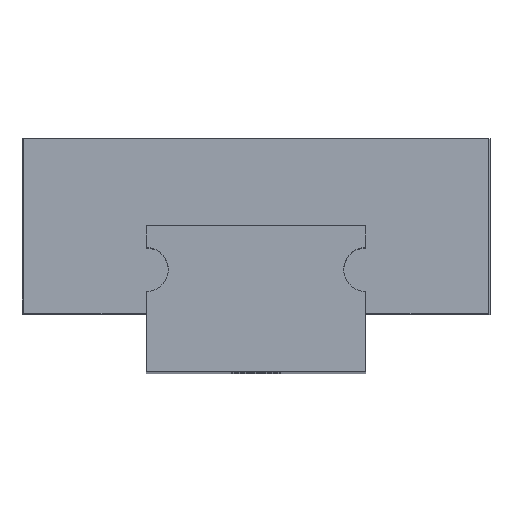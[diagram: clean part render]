
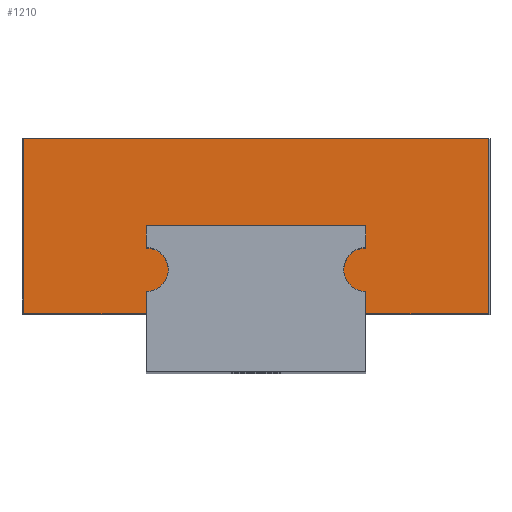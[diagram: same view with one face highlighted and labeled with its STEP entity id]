
A CAD part, top view. The second image highlights one B-rep face of the part: STEP entity #1210.
In plain terms, the highlighted planar face has unit normal (0, 0, 1).
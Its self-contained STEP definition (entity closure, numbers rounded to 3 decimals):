
#22 = EDGE_CURVE ( 'NONE', #777, #1383, #664, .T. ) ;
#50 = DIRECTION ( 'NONE',  ( 1., 0., 0. ) ) ;
#154 = CARTESIAN_POINT ( 'NONE',  ( -15.9, -6., 21.55 ) ) ;
#164 = CIRCLE ( 'NONE', #1069, 1.5 ) ;
#165 = VERTEX_POINT ( 'NONE', #1199 ) ;
#204 = CARTESIAN_POINT ( 'NONE',  ( -7.5, -4.5, 21.55 ) ) ;
#222 = CARTESIAN_POINT ( 'NONE',  ( -15.9, 6., 21.55 ) ) ;
#288 = CARTESIAN_POINT ( 'NONE',  ( -6., -3., 21.55 ) ) ;
#292 = EDGE_CURVE ( 'NONE', #464, #1184, #1625, .T. ) ;
#326 = VERTEX_POINT ( 'NONE', #1924 ) ;
#333 = LINE ( 'NONE', #222, #2474 ) ;
#351 = AXIS2_PLACEMENT_3D ( 'NONE', #1691, #2533, #50 ) ;
#399 = ORIENTED_EDGE ( 'NONE', *, *, #437, .T. ) ;
#437 = EDGE_CURVE ( 'NONE', #326, #1855, #1061, .T. ) ;
#441 = CARTESIAN_POINT ( 'NONE',  ( -15.9, 6., 21.55 ) ) ;
#447 = DIRECTION ( 'NONE',  ( -1., 0., 0. ) ) ;
#452 = CARTESIAN_POINT ( 'NONE',  ( 7.5, -3., 21.55 ) ) ;
#456 = ORIENTED_EDGE ( 'NONE', *, *, #2541, .F. ) ;
#464 = VERTEX_POINT ( 'NONE', #2331 ) ;
#507 = CARTESIAN_POINT ( 'NONE',  ( -7.5, 0., 21.55 ) ) ;
#528 = ORIENTED_EDGE ( 'NONE', *, *, #2313, .T. ) ;
#538 = CARTESIAN_POINT ( 'NONE',  ( -7.5, -6., 21.55 ) ) ;
#584 = VERTEX_POINT ( 'NONE', #204 ) ;
#610 = EDGE_CURVE ( 'NONE', #584, #1184, #1869, .T. ) ;
#611 = CARTESIAN_POINT ( 'NONE',  ( 15.9, 6., 21.55 ) ) ;
#617 = ORIENTED_EDGE ( 'NONE', *, *, #1329, .T. ) ;
#635 = DIRECTION ( 'NONE',  ( 0., 1., 0. ) ) ;
#653 = VERTEX_POINT ( 'NONE', #1391 ) ;
#664 = LINE ( 'NONE', #1988, #2319 ) ;
#666 = EDGE_CURVE ( 'NONE', #2002, #1290, #1709, .T. ) ;
#670 = DIRECTION ( 'NONE',  ( 1., 0., 0. ) ) ;
#735 = DIRECTION ( 'NONE',  ( 0., 0., 1. ) ) ;
#745 = EDGE_CURVE ( 'NONE', #2435, #2670, #1195, .T. ) ;
#762 = ORIENTED_EDGE ( 'NONE', *, *, #895, .F. ) ;
#776 = DIRECTION ( 'NONE',  ( 0., 1., 0. ) ) ;
#777 = VERTEX_POINT ( 'NONE', #1139 ) ;
#794 = CARTESIAN_POINT ( 'NONE',  ( 7.5, -4.5, 21.55 ) ) ;
#799 = DIRECTION ( 'NONE',  ( 0., 0., -1. ) ) ;
#853 = LINE ( 'NONE', #1940, #1978 ) ;
#895 = EDGE_CURVE ( 'NONE', #1383, #2435, #2216, .T. ) ;
#911 = ORIENTED_EDGE ( 'NONE', *, *, #1235, .F. ) ;
#936 = DIRECTION ( 'NONE',  ( 0., -1., 0. ) ) ;
#968 = CARTESIAN_POINT ( 'NONE',  ( -7.5, -4.5, 21.55 ) ) ;
#1006 = DIRECTION ( 'NONE',  ( 1., 0., 0. ) ) ;
#1041 = EDGE_CURVE ( 'NONE', #165, #777, #853, .T. ) ;
#1061 = LINE ( 'NONE', #611, #1559 ) ;
#1069 = AXIS2_PLACEMENT_3D ( 'NONE', #452, #1105, #670 ) ;
#1105 = DIRECTION ( 'NONE',  ( 0., 0., -1. ) ) ;
#1139 = CARTESIAN_POINT ( 'NONE',  ( 7.5, 0., 21.55 ) ) ;
#1184 = VERTEX_POINT ( 'NONE', #538 ) ;
#1195 = CIRCLE ( 'NONE', #2716, 1.5 ) ;
#1199 = CARTESIAN_POINT ( 'NONE',  ( 7.5, -1.5, 21.55 ) ) ;
#1210 = ADVANCED_FACE ( 'NONE', ( #2007 ), #1596, .T. ) ;
#1225 = EDGE_LOOP ( 'NONE', ( #2669, #617, #399, #528, #1858, #1777, #2603, #911, #2708, #762, #2404, #1673, #456 ) ) ;
#1235 = EDGE_CURVE ( 'NONE', #2670, #584, #2282, .T. ) ;
#1242 = AXIS2_PLACEMENT_3D ( 'NONE', #1995, #735, #1594 ) ;
#1271 = EDGE_CURVE ( 'NONE', #653, #464, #333, .T. ) ;
#1290 = VERTEX_POINT ( 'NONE', #2138 ) ;
#1325 = VECTOR ( 'NONE', #1627, 1000. ) ;
#1329 = EDGE_CURVE ( 'NONE', #2002, #326, #1522, .T. ) ;
#1365 = CARTESIAN_POINT ( 'NONE',  ( -7.5, 0., 21.55 ) ) ;
#1383 = VERTEX_POINT ( 'NONE', #1365 ) ;
#1391 = CARTESIAN_POINT ( 'NONE',  ( -15.9, 6., 21.55 ) ) ;
#1438 = DIRECTION ( 'NONE',  ( 1., 0., 0. ) ) ;
#1506 = CARTESIAN_POINT ( 'NONE',  ( -15.9, -6., 21.55 ) ) ;
#1519 = DIRECTION ( 'NONE',  ( 1., 0., 0. ) ) ;
#1522 = LINE ( 'NONE', #1506, #2177 ) ;
#1526 = VECTOR ( 'NONE', #936, 1000. ) ;
#1559 = VECTOR ( 'NONE', #635, 1000. ) ;
#1572 = CARTESIAN_POINT ( 'NONE',  ( 15.9, 6., 21.55 ) ) ;
#1594 = DIRECTION ( 'NONE',  ( 1., 0., 0. ) ) ;
#1596 = PLANE ( 'NONE',  #1242 ) ;
#1625 = LINE ( 'NONE', #154, #1904 ) ;
#1627 = DIRECTION ( 'NONE',  ( 0., -1., 0. ) ) ;
#1673 = ORIENTED_EDGE ( 'NONE', *, *, #1041, .F. ) ;
#1691 = CARTESIAN_POINT ( 'NONE',  ( -7.5, -3., 21.55 ) ) ;
#1709 = LINE ( 'NONE', #794, #2647 ) ;
#1777 = ORIENTED_EDGE ( 'NONE', *, *, #292, .T. ) ;
#1855 = VERTEX_POINT ( 'NONE', #1572 ) ;
#1858 = ORIENTED_EDGE ( 'NONE', *, *, #1271, .T. ) ;
#1869 = LINE ( 'NONE', #968, #1325 ) ;
#1904 = VECTOR ( 'NONE', #1438, 1000. ) ;
#1924 = CARTESIAN_POINT ( 'NONE',  ( 15.9, -6., 21.55 ) ) ;
#1940 = CARTESIAN_POINT ( 'NONE',  ( 7.5, 0., 21.55 ) ) ;
#1964 = DIRECTION ( 'NONE',  ( 0., 1., 0. ) ) ;
#1978 = VECTOR ( 'NONE', #1964, 1000. ) ;
#1988 = CARTESIAN_POINT ( 'NONE',  ( -7.5, 0., 21.55 ) ) ;
#1995 = CARTESIAN_POINT ( 'NONE',  ( 0., 0., 21.55 ) ) ;
#2002 = VERTEX_POINT ( 'NONE', #2266 ) ;
#2007 = FACE_OUTER_BOUND ( 'NONE', #1225, .T. ) ;
#2060 = CARTESIAN_POINT ( 'NONE',  ( -7.5, -3., 21.55 ) ) ;
#2138 = CARTESIAN_POINT ( 'NONE',  ( 7.5, -4.5, 21.55 ) ) ;
#2171 = CARTESIAN_POINT ( 'NONE',  ( -7.5, -1.5, 21.55 ) ) ;
#2177 = VECTOR ( 'NONE', #1519, 1000. ) ;
#2191 = DIRECTION ( 'NONE',  ( -1., 0., 0. ) ) ;
#2216 = LINE ( 'NONE', #507, #1526 ) ;
#2266 = CARTESIAN_POINT ( 'NONE',  ( 7.5, -6., 21.55 ) ) ;
#2282 = CIRCLE ( 'NONE', #351, 1.5 ) ;
#2313 = EDGE_CURVE ( 'NONE', #1855, #653, #2526, .T. ) ;
#2319 = VECTOR ( 'NONE', #2191, 1000. ) ;
#2331 = CARTESIAN_POINT ( 'NONE',  ( -15.9, -6., 21.55 ) ) ;
#2358 = DIRECTION ( 'NONE',  ( 0., -1., 0. ) ) ;
#2374 = VECTOR ( 'NONE', #447, 1000. ) ;
#2404 = ORIENTED_EDGE ( 'NONE', *, *, #22, .F. ) ;
#2435 = VERTEX_POINT ( 'NONE', #2171 ) ;
#2474 = VECTOR ( 'NONE', #2358, 1000. ) ;
#2526 = LINE ( 'NONE', #441, #2374 ) ;
#2533 = DIRECTION ( 'NONE',  ( 0., 0., -1. ) ) ;
#2541 = EDGE_CURVE ( 'NONE', #1290, #165, #164, .T. ) ;
#2603 = ORIENTED_EDGE ( 'NONE', *, *, #610, .F. ) ;
#2647 = VECTOR ( 'NONE', #776, 1000. ) ;
#2669 = ORIENTED_EDGE ( 'NONE', *, *, #666, .F. ) ;
#2670 = VERTEX_POINT ( 'NONE', #288 ) ;
#2708 = ORIENTED_EDGE ( 'NONE', *, *, #745, .F. ) ;
#2716 = AXIS2_PLACEMENT_3D ( 'NONE', #2060, #799, #1006 ) ;
